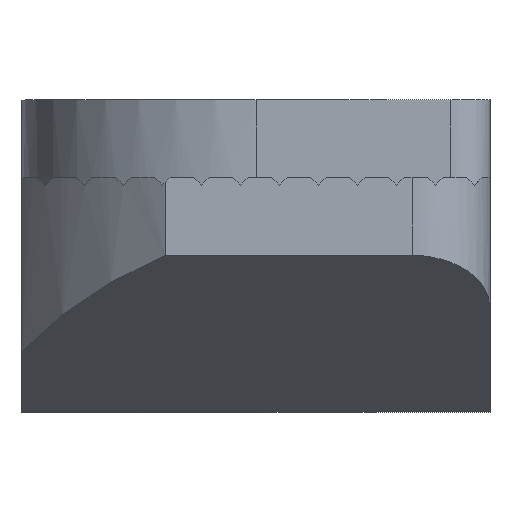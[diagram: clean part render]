
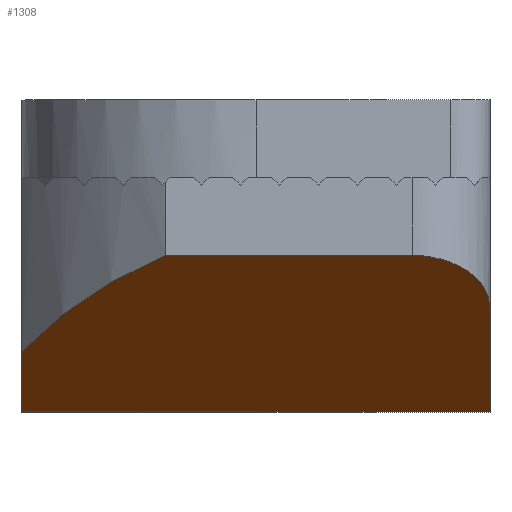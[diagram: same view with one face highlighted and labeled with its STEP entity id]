
A CAD part, top view. The second image highlights one B-rep face of the part: STEP entity #1308.
In plain terms, the highlighted planar face has unit normal (0, -0.832, 0.555).
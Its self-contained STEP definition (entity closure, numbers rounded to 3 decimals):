
#214 = VECTOR ( 'NONE', #2208, 1000. ) ;
#245 = CARTESIAN_POINT ( 'NONE',  ( 2., -1., 5. ) ) ;
#261 = CARTESIAN_POINT ( 'NONE',  ( -3., -3., 2. ) ) ;
#354 = PLANE ( 'NONE',  #797 ) ;
#368 = DIRECTION ( 'NONE',  ( 0., 0.832, -0.555 ) ) ;
#638 = VERTEX_POINT ( 'NONE', #1016 ) ;
#640 = LINE ( 'NONE', #261, #2020 ) ;
#687 = ORIENTED_EDGE ( 'NONE', *, *, #1785, .T. ) ;
#774 = ORIENTED_EDGE ( 'NONE', *, *, #1021, .F. ) ;
#797 = AXIS2_PLACEMENT_3D ( 'NONE', #1953, #368, #2210 ) ;
#1016 = CARTESIAN_POINT ( 'NONE',  ( -3., -2.225, 3.162 ) ) ;
#1021 = EDGE_CURVE ( 'NONE', #638, #1428, #1607, .T. ) ;
#1030 = CARTESIAN_POINT ( 'NONE',  ( -3., -3., 2. ) ) ;
#1153 = ORIENTED_EDGE ( 'NONE', *, *, #3030, .F. ) ;
#1158 = VERTEX_POINT ( 'NONE', #2739 ) ;
#1160 = CARTESIAN_POINT ( 'NONE',  ( -2.529, -1.729, 3.906 ) ) ;
#1308 = ADVANCED_FACE ( 'NONE', ( #1864 ), #354, .F. ) ;
#1355 = DIRECTION ( 'NONE',  ( 1., 0., 0. ) ) ;
#1365 = EDGE_LOOP ( 'NONE', ( #774, #2082, #687, #1589, #2515, #1153 ) ) ;
#1411 = CARTESIAN_POINT ( 'NONE',  ( -1.162, -1., 5. ) ) ;
#1428 = VERTEX_POINT ( 'NONE', #2980 ) ;
#1589 = ORIENTED_EDGE ( 'NONE', *, *, #1981, .T. ) ;
#1595 = CARTESIAN_POINT ( 'NONE',  ( 3., -1., 5. ) ) ;
#1607 =( BOUNDED_CURVE ( )  B_SPLINE_CURVE ( 3, ( #2410, #1160, #2896, #1411 ),
 .UNSPECIFIED., .F., .F. ) 
 B_SPLINE_CURVE_WITH_KNOTS ( ( 4, 4 ),
 ( 5.276, 5.719 ),
 .UNSPECIFIED. ) 
 CURVE ( )  GEOMETRIC_REPRESENTATION_ITEM ( )  RATIONAL_B_SPLINE_CURVE ( ( 1., 0.984, 0.984, 1. ) ) 
 REPRESENTATION_ITEM ( '' )  );
#1621 = LINE ( 'NONE', #1595, #2563 ) ;
#1622 = CARTESIAN_POINT ( 'NONE',  ( -3., -1., 5. ) ) ;
#1624 = CARTESIAN_POINT ( 'NONE',  ( 3., -3., 2. ) ) ;
#1730 = EDGE_CURVE ( 'NONE', #2852, #1158, #3270, .T. ) ;
#1785 = EDGE_CURVE ( 'NONE', #2041, #2215, #640, .T. ) ;
#1811 = EDGE_CURVE ( 'NONE', #2041, #638, #2675, .T. ) ;
#1843 = CARTESIAN_POINT ( 'NONE',  ( 2.586, -1., 5. ) ) ;
#1864 = FACE_OUTER_BOUND ( 'NONE', #1365, .T. ) ;
#1953 = CARTESIAN_POINT ( 'NONE',  ( -3., -1., 5. ) ) ;
#1981 = EDGE_CURVE ( 'NONE', #2215, #2852, #1621, .T. ) ;
#2016 = DIRECTION ( 'NONE',  ( 0., 0.555, 0.832 ) ) ;
#2020 = VECTOR ( 'NONE', #1355, 1000. ) ;
#2041 = VERTEX_POINT ( 'NONE', #1030 ) ;
#2082 = ORIENTED_EDGE ( 'NONE', *, *, #1811, .F. ) ;
#2208 = DIRECTION ( 'NONE',  ( 1., 0., 0. ) ) ;
#2210 = DIRECTION ( 'NONE',  ( 0., 0.555, 0.832 ) ) ;
#2215 = VERTEX_POINT ( 'NONE', #1624 ) ;
#2221 = CARTESIAN_POINT ( 'NONE',  ( -3., -1., 5. ) ) ;
#2395 = LINE ( 'NONE', #2221, #214 ) ;
#2410 = CARTESIAN_POINT ( 'NONE',  ( -3., -2.225, 3.162 ) ) ;
#2515 = ORIENTED_EDGE ( 'NONE', *, *, #1730, .T. ) ;
#2563 = VECTOR ( 'NONE', #2016, 1000. ) ;
#2626 = DIRECTION ( 'NONE',  ( 0., 0.555, 0.832 ) ) ;
#2675 = LINE ( 'NONE', #1622, #3175 ) ;
#2739 = CARTESIAN_POINT ( 'NONE',  ( 2., -1., 5. ) ) ;
#2821 = CARTESIAN_POINT ( 'NONE',  ( 3., -1.276, 4.586 ) ) ;
#2852 = VERTEX_POINT ( 'NONE', #2871 ) ;
#2871 = CARTESIAN_POINT ( 'NONE',  ( 3., -1.667, 4. ) ) ;
#2896 = CARTESIAN_POINT ( 'NONE',  ( -1.906, -1.314, 4.529 ) ) ;
#2980 = CARTESIAN_POINT ( 'NONE',  ( -1.162, -1., 5. ) ) ;
#3030 = EDGE_CURVE ( 'NONE', #1428, #1158, #2395, .T. ) ;
#3175 = VECTOR ( 'NONE', #2626, 1000. ) ;
#3270 =( BOUNDED_CURVE ( )  B_SPLINE_CURVE ( 3, ( #3296, #2821, #1843, #245 ),
 .UNSPECIFIED., .F., .F. ) 
 B_SPLINE_CURVE_WITH_KNOTS ( ( 4, 4 ),
 ( 4.712, 6.283 ),
 .UNSPECIFIED. ) 
 CURVE ( )  GEOMETRIC_REPRESENTATION_ITEM ( )  RATIONAL_B_SPLINE_CURVE ( ( 1., 0.805, 0.805, 1. ) ) 
 REPRESENTATION_ITEM ( '' )  );
#3296 = CARTESIAN_POINT ( 'NONE',  ( 3., -1.667, 4. ) ) ;
